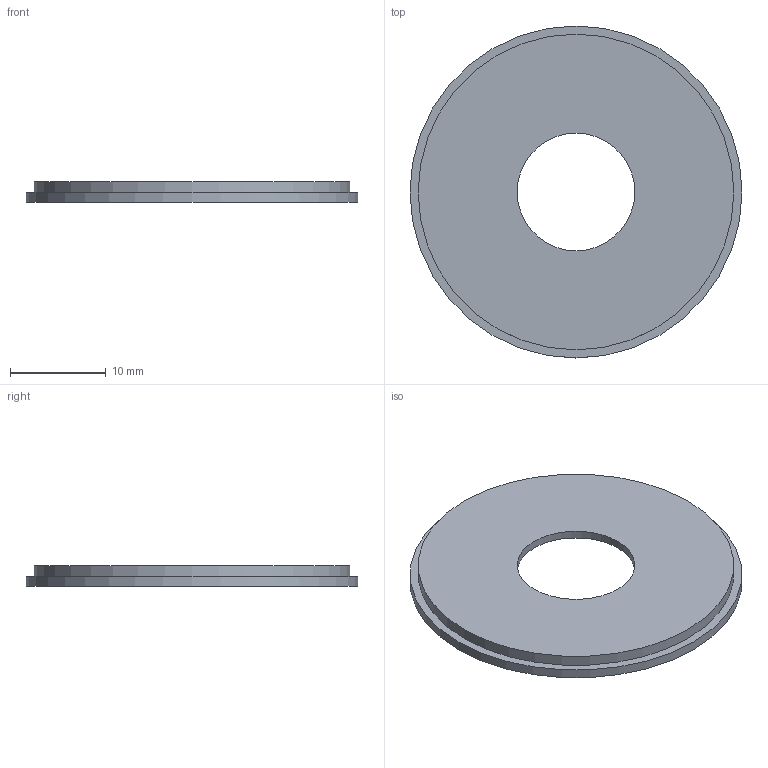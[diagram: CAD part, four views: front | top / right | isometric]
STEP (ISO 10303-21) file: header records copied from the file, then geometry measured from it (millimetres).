
FILE_DESCRIPTION(('FreeCAD Model'),'2;1');
FILE_NAME('Open CASCADE Shape Model','2026-09-23T14:25:23',('FreeCAD'),( 'FreeCAD'),'Open CASCADE STEP processor 7.8','FreeCAD','Unknown');
FILE_SCHEMA(('AUTOMOTIVE_DESIGN { 1 0 10303 214 1 1 1 1 }'));
Length unit declared in the file: millimetre
Products named in the file (1): Open CASCADE STEP translator 7.8 3
Bounding box: 34.7 x 34.7 x 2.15 mm (x, y, z)
Volume: 908.7 mm3; surface area: 2057.6 mm2
Topology: 1 solids, 1 shells, 18 faces, 27 edges, 18 vertices
Faces by surface type: plane 9, cylinder 9
Full cylindrical faces by diameter (mm): 1.7 x4, 12.3 x1, 15.1 x1, 30.6 x1, 33 x1, 34.7 x1
Entity records: 421 total; most frequent: DIRECTION 81, CARTESIAN_POINT 66, ORIENTED_EDGE 54, AXIS2_PLACEMENT_3D 37, FACE_BOUND 27, EDGE_LOOP 27, EDGE_CURVE 27, ADVANCED_FACE 18
